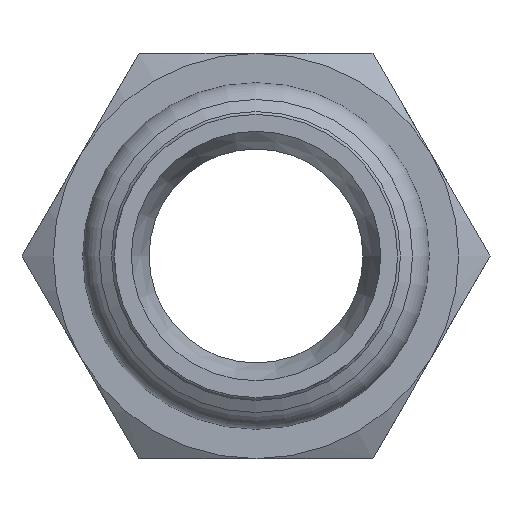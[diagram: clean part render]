
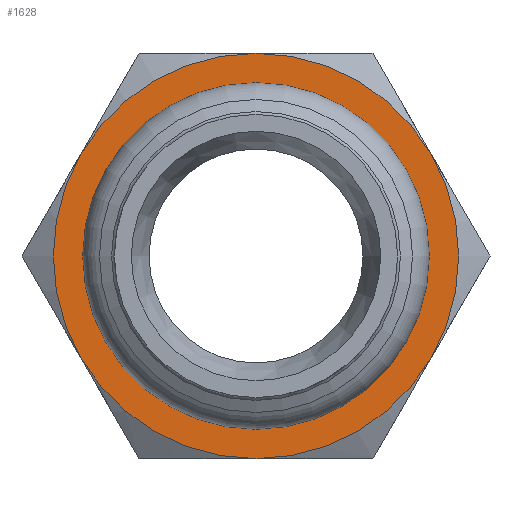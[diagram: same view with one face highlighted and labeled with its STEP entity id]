
A CAD part, left-side view. The second image highlights one B-rep face of the part: STEP entity #1628.
In plain terms, the highlighted planar face has unit normal (-1, 0, 0) as drawn and (0, 0, 1) by its records, which use the part's own axes.
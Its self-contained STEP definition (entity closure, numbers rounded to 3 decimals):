
#1191=CARTESIAN_POINT('',(15.588,9.,27.));
#1192=VERTEX_POINT('',#1191);
#1206=CARTESIAN_POINT('',(0.,18.0,27.));
#1207=VERTEX_POINT('',#1206);
#1221=CARTESIAN_POINT('',(0.0,0.0,27.));
#1222=DIRECTION('',(0.0,0.0,1.0));
#1223=DIRECTION('',(0.0,-1.0,0.0));
#1224=AXIS2_PLACEMENT_3D('',#1221,#1222,#1223);
#1225=CIRCLE('',#1224,18.);
#1226=EDGE_CURVE('',#1192,#1207,#1225,.T.);
#1238=CARTESIAN_POINT('',(15.588,-9.,27.));
#1239=VERTEX_POINT('',#1238);
#1266=CARTESIAN_POINT('',(0.0,0.0,27.));
#1267=DIRECTION('',(0.0,0.0,1.0));
#1268=DIRECTION('',(0.0,-1.0,0.0));
#1269=AXIS2_PLACEMENT_3D('',#1266,#1267,#1268);
#1270=CIRCLE('',#1269,18.);
#1271=EDGE_CURVE('',#1239,#1192,#1270,.T.);
#1283=CARTESIAN_POINT('',(0.0,-18.,27.));
#1284=VERTEX_POINT('',#1283);
#1311=CARTESIAN_POINT('',(0.0,0.0,27.));
#1312=DIRECTION('',(0.0,0.0,1.0));
#1313=DIRECTION('',(0.0,-1.0,0.0));
#1314=AXIS2_PLACEMENT_3D('',#1311,#1312,#1313);
#1315=CIRCLE('',#1314,18.);
#1316=EDGE_CURVE('',#1284,#1239,#1315,.T.);
#1341=CARTESIAN_POINT('',(-15.588,-9.,27.));
#1342=VERTEX_POINT('',#1341);
#1343=CARTESIAN_POINT('',(0.0,0.0,27.));
#1344=DIRECTION('',(0.0,0.0,1.0));
#1345=DIRECTION('',(0.0,-1.0,0.0));
#1346=AXIS2_PLACEMENT_3D('',#1343,#1344,#1345);
#1347=CIRCLE('',#1346,18.);
#1348=EDGE_CURVE('',#1342,#1284,#1347,.T.);
#1386=CARTESIAN_POINT('',(-15.588,9.,27.));
#1387=VERTEX_POINT('',#1386);
#1388=CARTESIAN_POINT('',(0.0,0.0,27.));
#1389=DIRECTION('',(0.0,0.0,1.0));
#1390=DIRECTION('',(0.0,-1.0,0.0));
#1391=AXIS2_PLACEMENT_3D('',#1388,#1389,#1390);
#1392=CIRCLE('',#1391,18.);
#1393=EDGE_CURVE('',#1387,#1342,#1392,.T.);
#1431=CARTESIAN_POINT('',(0.0,0.0,27.));
#1432=DIRECTION('',(0.0,0.0,1.0));
#1433=DIRECTION('',(0.0,-1.0,0.0));
#1434=AXIS2_PLACEMENT_3D('',#1431,#1432,#1433);
#1435=CIRCLE('',#1434,18.);
#1436=EDGE_CURVE('',#1207,#1387,#1435,.T.);
#1569=CARTESIAN_POINT('',(13.0,0.,27.));
#1570=VERTEX_POINT('',#1569);
#1571=CARTESIAN_POINT('',(0.,0.,27.));
#1572=DIRECTION('',(0.0,0.0,1.0));
#1573=DIRECTION('',(-1.0,0.0,0.0));
#1574=AXIS2_PLACEMENT_3D('',#1571,#1572,#1573);
#1575=CIRCLE('',#1574,13.0);
#1576=EDGE_CURVE('',#1570,#1570,#1575,.T.);
#1612=CARTESIAN_POINT('',(0.,0.,27.));
#1613=DIRECTION('',(0.0,0.0,1.0));
#1614=DIRECTION('',(1.0,0.0,0.0));
#1615=AXIS2_PLACEMENT_3D('',#1612,#1613,#1614);
#1616=PLANE('',#1615);
#1617=ORIENTED_EDGE('',*,*,#1436,.T.);
#1618=ORIENTED_EDGE('',*,*,#1393,.T.);
#1619=ORIENTED_EDGE('',*,*,#1348,.T.);
#1620=ORIENTED_EDGE('',*,*,#1316,.T.);
#1621=ORIENTED_EDGE('',*,*,#1271,.T.);
#1622=ORIENTED_EDGE('',*,*,#1226,.T.);
#1623=EDGE_LOOP('',(#1617,#1618,#1619,#1620,#1621,#1622));
#1624=FACE_OUTER_BOUND('',#1623,.T.);
#1625=ORIENTED_EDGE('',*,*,#1576,.F.);
#1626=EDGE_LOOP('',(#1625));
#1627=FACE_BOUND('',#1626,.T.);
#1628=ADVANCED_FACE('',(#1624,#1627),#1616,.T.);
